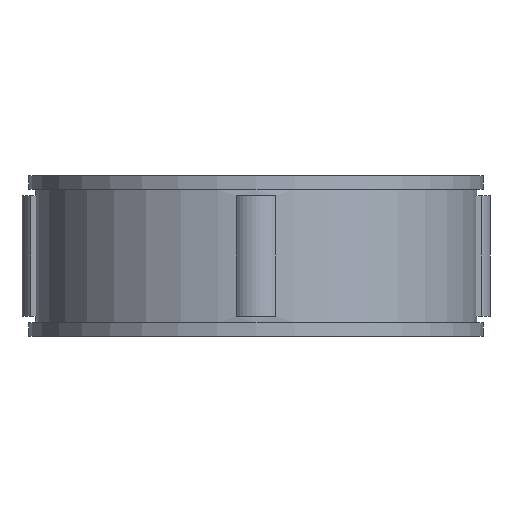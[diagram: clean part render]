
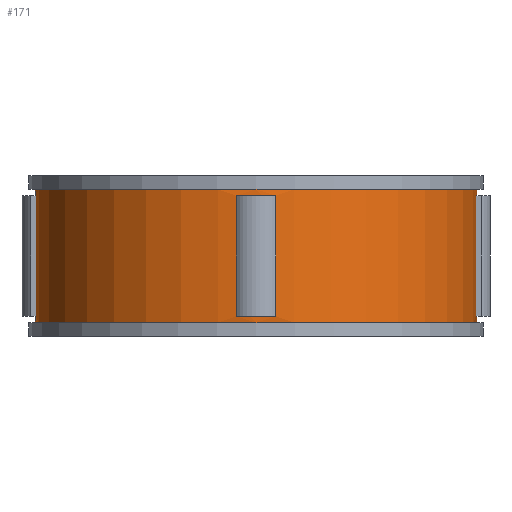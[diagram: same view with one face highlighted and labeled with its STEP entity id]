
A CAD part, front view. The second image highlights one B-rep face of the part: STEP entity #171.
In plain terms, the highlighted cylindrical face has radius 16.5 mm (diameter 33 mm), a full revolution.
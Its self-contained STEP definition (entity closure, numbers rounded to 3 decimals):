
#171=ADVANCED_FACE('',(#359,#360,#361,#362,#363,#364),#219,.T.);
#219=CYLINDRICAL_SURFACE('',#882,16.5);
#231=LINE('',#1207,#295);
#232=LINE('',#1212,#296);
#233=LINE('',#1215,#297);
#234=LINE('',#1220,#298);
#235=LINE('',#1223,#299);
#236=LINE('',#1228,#300);
#237=LINE('',#1234,#301);
#238=LINE('',#1238,#302);
#295=VECTOR('',#966,1.);
#296=VECTOR('',#969,1.);
#297=VECTOR('',#972,1.);
#298=VECTOR('',#975,1.);
#299=VECTOR('',#978,1.);
#300=VECTOR('',#981,1.);
#301=VECTOR('',#986,1.);
#302=VECTOR('',#989,1.);
#359=FACE_BOUND('',#383,.T.);
#360=FACE_BOUND('',#384,.T.);
#361=FACE_BOUND('',#385,.T.);
#362=FACE_BOUND('',#386,.T.);
#363=FACE_BOUND('',#387,.T.);
#364=FACE_BOUND('',#388,.T.);
#383=EDGE_LOOP('',(#447));
#384=EDGE_LOOP('',(#448));
#385=EDGE_LOOP('',(#449,#450,#451,#452));
#386=EDGE_LOOP('',(#453,#454,#455,#456));
#387=EDGE_LOOP('',(#457,#458,#459,#460));
#388=EDGE_LOOP('',(#461,#462,#463,#464));
#447=ORIENTED_EDGE('',*,*,#727,.F.);
#448=ORIENTED_EDGE('',*,*,#728,.T.);
#449=ORIENTED_EDGE('',*,*,#729,.F.);
#450=ORIENTED_EDGE('',*,*,#730,.T.);
#451=ORIENTED_EDGE('',*,*,#731,.F.);
#452=ORIENTED_EDGE('',*,*,#732,.F.);
#453=ORIENTED_EDGE('',*,*,#733,.F.);
#454=ORIENTED_EDGE('',*,*,#734,.T.);
#455=ORIENTED_EDGE('',*,*,#735,.F.);
#456=ORIENTED_EDGE('',*,*,#736,.F.);
#457=ORIENTED_EDGE('',*,*,#737,.F.);
#458=ORIENTED_EDGE('',*,*,#738,.T.);
#459=ORIENTED_EDGE('',*,*,#739,.F.);
#460=ORIENTED_EDGE('',*,*,#740,.F.);
#461=ORIENTED_EDGE('',*,*,#741,.F.);
#462=ORIENTED_EDGE('',*,*,#742,.T.);
#463=ORIENTED_EDGE('',*,*,#743,.T.);
#464=ORIENTED_EDGE('',*,*,#744,.T.);
#655=VERTEX_POINT('',#1204);
#656=VERTEX_POINT('',#1206);
#657=VERTEX_POINT('',#1208);
#658=VERTEX_POINT('',#1209);
#659=VERTEX_POINT('',#1211);
#660=VERTEX_POINT('',#1213);
#661=VERTEX_POINT('',#1216);
#662=VERTEX_POINT('',#1217);
#663=VERTEX_POINT('',#1219);
#664=VERTEX_POINT('',#1221);
#665=VERTEX_POINT('',#1224);
#666=VERTEX_POINT('',#1225);
#667=VERTEX_POINT('',#1227);
#668=VERTEX_POINT('',#1229);
#669=VERTEX_POINT('',#1232);
#670=VERTEX_POINT('',#1233);
#671=VERTEX_POINT('',#1235);
#672=VERTEX_POINT('',#1237);
#727=EDGE_CURVE('',#655,#655,#831,.T.);
#728=EDGE_CURVE('',#656,#656,#832,.T.);
#729=EDGE_CURVE('',#657,#658,#231,.T.);
#730=EDGE_CURVE('',#657,#659,#833,.T.);
#731=EDGE_CURVE('',#660,#659,#232,.T.);
#732=EDGE_CURVE('',#658,#660,#834,.T.);
#733=EDGE_CURVE('',#661,#662,#233,.T.);
#734=EDGE_CURVE('',#661,#663,#835,.T.);
#735=EDGE_CURVE('',#664,#663,#234,.T.);
#736=EDGE_CURVE('',#662,#664,#836,.T.);
#737=EDGE_CURVE('',#665,#666,#235,.T.);
#738=EDGE_CURVE('',#665,#667,#837,.T.);
#739=EDGE_CURVE('',#668,#667,#236,.T.);
#740=EDGE_CURVE('',#666,#668,#838,.T.);
#741=EDGE_CURVE('',#669,#670,#839,.T.);
#742=EDGE_CURVE('',#669,#671,#237,.T.);
#743=EDGE_CURVE('',#671,#672,#840,.T.);
#744=EDGE_CURVE('',#672,#670,#238,.T.);
#831=CIRCLE('',#872,16.5);
#832=CIRCLE('',#873,16.5);
#833=CIRCLE('',#874,16.5);
#834=CIRCLE('',#875,16.5);
#835=CIRCLE('',#876,16.5);
#836=CIRCLE('',#877,16.5);
#837=CIRCLE('',#878,16.5);
#838=CIRCLE('',#879,16.5);
#839=CIRCLE('',#880,16.5);
#840=CIRCLE('',#881,16.5);
#872=AXIS2_PLACEMENT_3D('',#1203,#962,#963);
#873=AXIS2_PLACEMENT_3D('',#1205,#964,#965);
#874=AXIS2_PLACEMENT_3D('',#1210,#967,#968);
#875=AXIS2_PLACEMENT_3D('',#1214,#970,#971);
#876=AXIS2_PLACEMENT_3D('',#1218,#973,#974);
#877=AXIS2_PLACEMENT_3D('',#1222,#976,#977);
#878=AXIS2_PLACEMENT_3D('',#1226,#979,#980);
#879=AXIS2_PLACEMENT_3D('',#1230,#982,#983);
#880=AXIS2_PLACEMENT_3D('',#1231,#984,#985);
#881=AXIS2_PLACEMENT_3D('',#1236,#987,#988);
#882=AXIS2_PLACEMENT_3D('',#1239,#990,#991);
#962=DIRECTION('',(0.,0.,1.));
#963=DIRECTION('',(1.,0.,0.));
#964=DIRECTION('',(0.,0.,1.));
#965=DIRECTION('',(1.,0.,0.));
#966=DIRECTION('',(0.,0.,-1.));
#967=DIRECTION('',(0.,0.,1.));
#968=DIRECTION('',(1.,0.,0.));
#969=DIRECTION('',(0.,0.,1.));
#970=DIRECTION('',(0.,0.,1.));
#971=DIRECTION('',(1.,0.,0.));
#972=DIRECTION('',(0.,0.,-1.));
#973=DIRECTION('',(0.,0.,1.));
#974=DIRECTION('',(1.,0.,0.));
#975=DIRECTION('',(0.,0.,1.));
#976=DIRECTION('',(0.,0.,1.));
#977=DIRECTION('',(1.,0.,0.));
#978=DIRECTION('',(0.,0.,-1.));
#979=DIRECTION('',(0.,0.,1.));
#980=DIRECTION('',(1.,0.,0.));
#981=DIRECTION('',(0.,0.,1.));
#982=DIRECTION('',(0.,0.,1.));
#983=DIRECTION('',(1.,0.,0.));
#984=DIRECTION('',(0.,0.,-1.));
#985=DIRECTION('',(-1.,0.,0.));
#986=DIRECTION('',(0.,0.,-1.));
#987=DIRECTION('',(0.,0.,-1.));
#988=DIRECTION('',(-1.,0.,0.));
#989=DIRECTION('',(0.,0.,1.));
#990=DIRECTION('',(0.,0.,-1.));
#991=DIRECTION('',(-1.,0.,0.));
#1203=CARTESIAN_POINT('',(0.,0.,11.));
#1204=CARTESIAN_POINT('',(16.5,0.,11.));
#1205=CARTESIAN_POINT('',(0.,0.,1.));
#1206=CARTESIAN_POINT('',(16.5,0.,1.));
#1207=CARTESIAN_POINT('',(16.434,-1.471,12.));
#1208=CARTESIAN_POINT('',(16.434,-1.471,10.5));
#1209=CARTESIAN_POINT('',(16.434,-1.471,1.5));
#1210=CARTESIAN_POINT('',(0.,0.,10.5));
#1211=CARTESIAN_POINT('',(16.434,1.471,10.5));
#1212=CARTESIAN_POINT('',(16.434,1.471,12.));
#1213=CARTESIAN_POINT('',(16.434,1.471,1.5));
#1214=CARTESIAN_POINT('',(0.,0.,1.5));
#1215=CARTESIAN_POINT('',(1.471,16.434,12.));
#1216=CARTESIAN_POINT('',(1.471,16.434,10.5));
#1217=CARTESIAN_POINT('',(1.471,16.434,1.5));
#1218=CARTESIAN_POINT('',(0.,0.,10.5));
#1219=CARTESIAN_POINT('',(-1.471,16.434,10.5));
#1220=CARTESIAN_POINT('',(-1.471,16.434,12.));
#1221=CARTESIAN_POINT('',(-1.471,16.434,1.5));
#1222=CARTESIAN_POINT('',(0.,0.,1.5));
#1223=CARTESIAN_POINT('',(-16.434,1.471,12.));
#1224=CARTESIAN_POINT('',(-16.434,1.471,10.5));
#1225=CARTESIAN_POINT('',(-16.434,1.471,1.5));
#1226=CARTESIAN_POINT('',(0.,0.,10.5));
#1227=CARTESIAN_POINT('',(-16.434,-1.471,10.5));
#1228=CARTESIAN_POINT('',(-16.434,-1.471,12.));
#1229=CARTESIAN_POINT('',(-16.434,-1.471,1.5));
#1230=CARTESIAN_POINT('',(0.,0.,1.5));
#1231=CARTESIAN_POINT('',(0.,0.,10.5));
#1232=CARTESIAN_POINT('',(1.471,-16.434,10.5));
#1233=CARTESIAN_POINT('',(-1.471,-16.434,10.5));
#1234=CARTESIAN_POINT('',(1.471,-16.434,12.));
#1235=CARTESIAN_POINT('',(1.471,-16.434,1.5));
#1236=CARTESIAN_POINT('',(0.,0.,1.5));
#1237=CARTESIAN_POINT('',(-1.471,-16.434,1.5));
#1238=CARTESIAN_POINT('',(-1.471,-16.434,12.));
#1239=CARTESIAN_POINT('',(0.,0.,12.));
